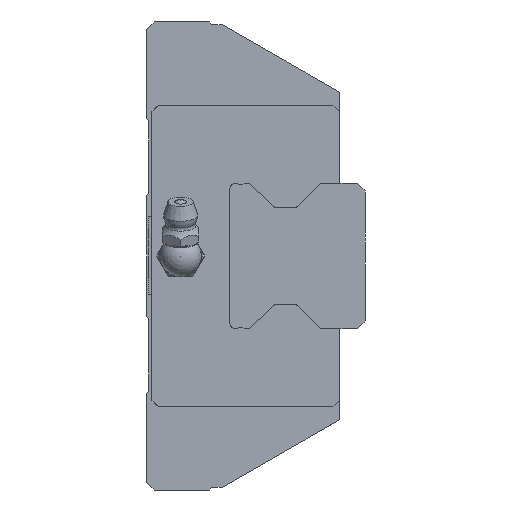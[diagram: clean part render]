
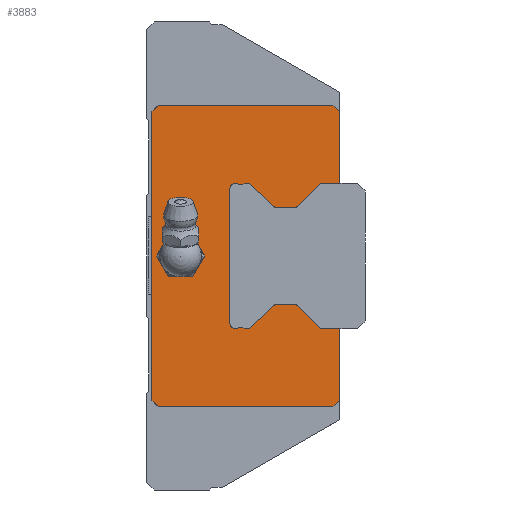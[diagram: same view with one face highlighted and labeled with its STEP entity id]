
A CAD part, left-side view. The second image highlights one B-rep face of the part: STEP entity #3883.
In plain terms, the highlighted planar face has unit normal (-1, 0, 0).
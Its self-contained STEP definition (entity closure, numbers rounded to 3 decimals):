
#153=CIRCLE('',#4205,3.);
#154=CIRCLE('',#4206,0.3);
#155=CIRCLE('',#4207,0.3);
#156=CIRCLE('',#4208,1.);
#157=CIRCLE('',#4209,1.);
#158=CIRCLE('',#4210,0.3);
#159=CIRCLE('',#4211,0.3);
#628=ORIENTED_EDGE('',*,*,#1568,.T.);
#629=ORIENTED_EDGE('',*,*,#1569,.T.);
#630=ORIENTED_EDGE('',*,*,#1557,.F.);
#631=ORIENTED_EDGE('',*,*,#1519,.F.);
#632=ORIENTED_EDGE('',*,*,#1515,.F.);
#633=ORIENTED_EDGE('',*,*,#1507,.F.);
#634=ORIENTED_EDGE('',*,*,#1544,.F.);
#635=ORIENTED_EDGE('',*,*,#1493,.F.);
#636=ORIENTED_EDGE('',*,*,#1530,.F.);
#637=ORIENTED_EDGE('',*,*,#1527,.F.);
#638=ORIENTED_EDGE('',*,*,#1559,.F.);
#639=ORIENTED_EDGE('',*,*,#1570,.T.);
#640=ORIENTED_EDGE('',*,*,#1571,.T.);
#641=ORIENTED_EDGE('',*,*,#1572,.F.);
#642=ORIENTED_EDGE('',*,*,#1573,.T.);
#643=ORIENTED_EDGE('',*,*,#1574,.F.);
#644=ORIENTED_EDGE('',*,*,#1575,.T.);
#645=ORIENTED_EDGE('',*,*,#1576,.T.);
#646=ORIENTED_EDGE('',*,*,#1577,.T.);
#647=ORIENTED_EDGE('',*,*,#1578,.T.);
#648=ORIENTED_EDGE('',*,*,#1579,.T.);
#649=ORIENTED_EDGE('',*,*,#1580,.T.);
#650=ORIENTED_EDGE('',*,*,#1581,.T.);
#651=ORIENTED_EDGE('',*,*,#1582,.T.);
#652=ORIENTED_EDGE('',*,*,#1583,.T.);
#653=ORIENTED_EDGE('',*,*,#1584,.T.);
#654=ORIENTED_EDGE('',*,*,#1585,.T.);
#655=ORIENTED_EDGE('',*,*,#1586,.F.);
#656=ORIENTED_EDGE('',*,*,#1587,.T.);
#657=ORIENTED_EDGE('',*,*,#1588,.F.);
#658=ORIENTED_EDGE('',*,*,#1589,.T.);
#1493=EDGE_CURVE('',#1994,#1995,#2366,.T.);
#1507=EDGE_CURVE('',#2007,#2008,#2380,.T.);
#1515=EDGE_CURVE('',#2008,#2014,#2387,.T.);
#1519=EDGE_CURVE('',#2014,#2016,#2391,.T.);
#1527=EDGE_CURVE('',#2023,#2024,#2399,.T.);
#1530=EDGE_CURVE('',#2024,#1994,#2402,.T.);
#1544=EDGE_CURVE('',#1995,#2007,#2411,.T.);
#1557=EDGE_CURVE('',#2016,#2035,#2422,.T.);
#1559=EDGE_CURVE('',#2042,#2023,#2424,.T.);
#1568=EDGE_CURVE('',#2050,#2050,#153,.T.);
#1569=EDGE_CURVE('',#2051,#2035,#2431,.T.);
#1570=EDGE_CURVE('',#2042,#2052,#2432,.T.);
#1571=EDGE_CURVE('',#2052,#2053,#2433,.T.);
#1572=EDGE_CURVE('',#2054,#2053,#154,.T.);
#1573=EDGE_CURVE('',#2054,#2055,#2434,.T.);
#1574=EDGE_CURVE('',#2056,#2055,#155,.T.);
#1575=EDGE_CURVE('',#2056,#2057,#2435,.T.);
#1576=EDGE_CURVE('',#2057,#2058,#2436,.T.);
#1577=EDGE_CURVE('',#2058,#2059,#2437,.T.);
#1578=EDGE_CURVE('',#2059,#2060,#2438,.T.);
#1579=EDGE_CURVE('',#2060,#2061,#156,.T.);
#1580=EDGE_CURVE('',#2061,#2062,#2439,.T.);
#1581=EDGE_CURVE('',#2062,#2063,#157,.T.);
#1582=EDGE_CURVE('',#2063,#2064,#2440,.T.);
#1583=EDGE_CURVE('',#2064,#2065,#2441,.T.);
#1584=EDGE_CURVE('',#2065,#2066,#2442,.T.);
#1585=EDGE_CURVE('',#2066,#2067,#2443,.T.);
#1586=EDGE_CURVE('',#2068,#2067,#158,.T.);
#1587=EDGE_CURVE('',#2068,#2069,#2444,.T.);
#1588=EDGE_CURVE('',#2070,#2069,#159,.T.);
#1589=EDGE_CURVE('',#2070,#2051,#2445,.T.);
#1994=VERTEX_POINT('',#5893);
#1995=VERTEX_POINT('',#5895);
#2007=VERTEX_POINT('',#5921);
#2008=VERTEX_POINT('',#5923);
#2014=VERTEX_POINT('',#5939);
#2016=VERTEX_POINT('',#5946);
#2023=VERTEX_POINT('',#5961);
#2024=VERTEX_POINT('',#5963);
#2035=VERTEX_POINT('',#6004);
#2042=VERTEX_POINT('',#6022);
#2050=VERTEX_POINT('',#6041);
#2051=VERTEX_POINT('',#6043);
#2052=VERTEX_POINT('',#6045);
#2053=VERTEX_POINT('',#6047);
#2054=VERTEX_POINT('',#6049);
#2055=VERTEX_POINT('',#6051);
#2056=VERTEX_POINT('',#6053);
#2057=VERTEX_POINT('',#6055);
#2058=VERTEX_POINT('',#6057);
#2059=VERTEX_POINT('',#6059);
#2060=VERTEX_POINT('',#6061);
#2061=VERTEX_POINT('',#6063);
#2062=VERTEX_POINT('',#6065);
#2063=VERTEX_POINT('',#6067);
#2064=VERTEX_POINT('',#6069);
#2065=VERTEX_POINT('',#6071);
#2066=VERTEX_POINT('',#6073);
#2067=VERTEX_POINT('',#6075);
#2068=VERTEX_POINT('',#6077);
#2069=VERTEX_POINT('',#6079);
#2070=VERTEX_POINT('',#6081);
#2366=LINE('',#5894,#2742);
#2380=LINE('',#5922,#2756);
#2387=LINE('',#5938,#2763);
#2391=LINE('',#5945,#2767);
#2399=LINE('',#5962,#2775);
#2402=LINE('',#5967,#2778);
#2411=LINE('',#5994,#2787);
#2422=LINE('',#6019,#2798);
#2424=LINE('',#6024,#2800);
#2431=LINE('',#6042,#2807);
#2432=LINE('',#6044,#2808);
#2433=LINE('',#6046,#2809);
#2434=LINE('',#6050,#2810);
#2435=LINE('',#6054,#2811);
#2436=LINE('',#6056,#2812);
#2437=LINE('',#6058,#2813);
#2438=LINE('',#6060,#2814);
#2439=LINE('',#6064,#2815);
#2440=LINE('',#6068,#2816);
#2441=LINE('',#6070,#2817);
#2442=LINE('',#6072,#2818);
#2443=LINE('',#6074,#2819);
#2444=LINE('',#6078,#2820);
#2445=LINE('',#6082,#2821);
#2742=VECTOR('',#4761,1000.);
#2756=VECTOR('',#4777,1000.);
#2763=VECTOR('',#4790,1000.);
#2767=VECTOR('',#4796,1000.);
#2775=VECTOR('',#4806,1000.);
#2778=VECTOR('',#4811,1000.);
#2787=VECTOR('',#4842,1000.);
#2798=VECTOR('',#4861,1000.);
#2800=VECTOR('',#4865,1000.);
#2807=VECTOR('',#4880,1000.);
#2808=VECTOR('',#4881,1000.);
#2809=VECTOR('',#4882,1000.);
#2810=VECTOR('',#4885,1000.);
#2811=VECTOR('',#4888,1000.);
#2812=VECTOR('',#4889,1000.);
#2813=VECTOR('',#4890,1000.);
#2814=VECTOR('',#4891,1000.);
#2815=VECTOR('',#4894,1000.);
#2816=VECTOR('',#4897,1000.);
#2817=VECTOR('',#4898,1000.);
#2818=VECTOR('',#4899,1000.);
#2819=VECTOR('',#4900,1000.);
#2820=VECTOR('',#4903,1000.);
#2821=VECTOR('',#4906,1000.);
#3121=EDGE_LOOP('',(#628));
#3122=EDGE_LOOP('',(#629,#630,#631,#632,#633,#634,#635,#636,#637,#638,#639,
#640,#641,#642,#643,#644,#645,#646,#647,#648,#649,#650,#651,#652,#653,#654,
#655,#656,#657,#658));
#3444=FACE_BOUND('',#3121,.T.);
#3445=FACE_BOUND('',#3122,.T.);
#3706=PLANE('',#4204);
#3883=ADVANCED_FACE('',(#3444,#3445),#3706,.F.);
#4204=AXIS2_PLACEMENT_3D('',#6039,#4876,#4877);
#4205=AXIS2_PLACEMENT_3D('',#6040,#4878,#4879);
#4206=AXIS2_PLACEMENT_3D('',#6048,#4883,#4884);
#4207=AXIS2_PLACEMENT_3D('',#6052,#4886,#4887);
#4208=AXIS2_PLACEMENT_3D('',#6062,#4892,#4893);
#4209=AXIS2_PLACEMENT_3D('',#6066,#4895,#4896);
#4210=AXIS2_PLACEMENT_3D('',#6076,#4901,#4902);
#4211=AXIS2_PLACEMENT_3D('',#6080,#4904,#4905);
#4761=DIRECTION('',(0.,0.707,0.707));
#4777=DIRECTION('',(0.,-0.707,0.707));
#4790=DIRECTION('',(0.,-1.,0.));
#4796=DIRECTION('',(0.,-0.707,-0.707));
#4806=DIRECTION('',(0.,0.707,-0.707));
#4811=DIRECTION('',(0.,1.,0.));
#4842=DIRECTION('',(0.,0.,1.));
#4861=DIRECTION('',(0.,0.,-1.));
#4865=DIRECTION('',(0.,0.,-1.));
#4876=DIRECTION('',(1.,0.,0.));
#4877=DIRECTION('',(0.,0.,-1.));
#4878=DIRECTION('',(1.,0.,0.));
#4879=DIRECTION('',(0.,0.,-1.));
#4880=DIRECTION('',(0.,-1.,0.));
#4881=DIRECTION('',(0.,1.,0.));
#4882=DIRECTION('',(0.,0.707,0.707));
#4883=DIRECTION('',(1.,0.,0.));
#4884=DIRECTION('',(0.,0.,-1.));
#4885=DIRECTION('',(0.,1.,0.));
#4886=DIRECTION('',(1.,0.,0.));
#4887=DIRECTION('',(0.,0.,-1.));
#4888=DIRECTION('',(0.,0.722,-0.692));
#4889=DIRECTION('',(0.,1.,0.));
#4890=DIRECTION('',(0.,0.707,0.707));
#4891=DIRECTION('',(0.,1.,0.));
#4892=DIRECTION('',(1.,0.,0.));
#4893=DIRECTION('',(0.,0.,-1.));
#4894=DIRECTION('',(0.,0.,1.));
#4895=DIRECTION('',(1.,0.,0.));
#4896=DIRECTION('',(0.,0.,-1.));
#4897=DIRECTION('',(0.,-1.,0.));
#4898=DIRECTION('',(0.,-0.707,0.707));
#4899=DIRECTION('',(0.,-1.,0.));
#4900=DIRECTION('',(0.,-0.722,-0.692));
#4901=DIRECTION('',(1.,0.,0.));
#4902=DIRECTION('',(0.,0.,-1.));
#4903=DIRECTION('',(0.,-1.,0.));
#4904=DIRECTION('',(1.,0.,0.));
#4905=DIRECTION('',(0.,0.,-1.));
#4906=DIRECTION('',(0.,-0.707,0.707));
#5893=CARTESIAN_POINT('',(-55.5,34.8,-29.));
#5894=CARTESIAN_POINT('',(-55.5,34.8,-29.));
#5895=CARTESIAN_POINT('',(-55.5,36.,-27.8));
#5921=CARTESIAN_POINT('',(-55.5,36.,27.8));
#5922=CARTESIAN_POINT('',(-55.5,36.,27.8));
#5923=CARTESIAN_POINT('',(-55.5,34.8,29.));
#5938=CARTESIAN_POINT('',(-55.5,34.8,29.));
#5939=CARTESIAN_POINT('',(-55.5,1.2,29.));
#5945=CARTESIAN_POINT('',(-55.5,1.2,29.));
#5946=CARTESIAN_POINT('',(-55.5,0.,27.8));
#5961=CARTESIAN_POINT('',(-55.5,0.,-27.8));
#5962=CARTESIAN_POINT('',(-55.5,0.,-27.8));
#5963=CARTESIAN_POINT('',(-55.5,1.2,-29.));
#5967=CARTESIAN_POINT('',(-55.5,1.2,-29.));
#5994=CARTESIAN_POINT('',(-55.5,36.,-27.8));
#6004=CARTESIAN_POINT('',(-55.5,0.,14.));
#6019=CARTESIAN_POINT('',(-55.5,0.,27.8));
#6022=CARTESIAN_POINT('',(-55.5,0.,-14.));
#6024=CARTESIAN_POINT('',(-55.5,0.,27.8));
#6039=CARTESIAN_POINT('',(-55.5,0.,0.));
#6040=CARTESIAN_POINT('',(-55.5,30.5,0.));
#6041=CARTESIAN_POINT('',(-55.5,30.5,-3.));
#6042=CARTESIAN_POINT('',(-55.5,3.6,14.));
#6043=CARTESIAN_POINT('',(-55.5,3.6,14.));
#6044=CARTESIAN_POINT('',(-55.5,-3.5,-14.));
#6045=CARTESIAN_POINT('',(-55.5,3.6,-14.));
#6046=CARTESIAN_POINT('',(-55.5,3.6,-14.));
#6047=CARTESIAN_POINT('',(-55.5,8.112,-9.488));
#6048=CARTESIAN_POINT('',(-55.5,8.324,-9.7));
#6049=CARTESIAN_POINT('',(-55.5,8.324,-9.4));
#6050=CARTESIAN_POINT('',(-55.5,8.324,-9.4));
#6051=CARTESIAN_POINT('',(-55.5,12.379,-9.4));
#6052=CARTESIAN_POINT('',(-55.5,12.379,-9.7));
#6053=CARTESIAN_POINT('',(-55.5,12.587,-9.483));
#6054=CARTESIAN_POINT('',(-55.5,12.587,-9.483));
#6055=CARTESIAN_POINT('',(-55.5,17.3,-14.));
#6056=CARTESIAN_POINT('',(-55.5,17.3,-14.));
#6057=CARTESIAN_POINT('',(-55.5,18.27,-14.));
#6058=CARTESIAN_POINT('',(-55.5,18.27,-14.));
#6059=CARTESIAN_POINT('',(-55.5,18.52,-13.75));
#6060=CARTESIAN_POINT('',(-55.5,18.52,-13.75));
#6061=CARTESIAN_POINT('',(-55.5,19.339,-13.75));
#6062=CARTESIAN_POINT('',(-55.5,20.,-13.));
#6063=CARTESIAN_POINT('',(-55.5,21.,-13.));
#6064=CARTESIAN_POINT('',(-55.5,21.,-13.));
#6065=CARTESIAN_POINT('',(-55.5,21.,13.));
#6066=CARTESIAN_POINT('',(-55.5,20.,13.));
#6067=CARTESIAN_POINT('',(-55.5,19.339,13.75));
#6068=CARTESIAN_POINT('',(-55.5,19.339,13.75));
#6069=CARTESIAN_POINT('',(-55.5,18.52,13.75));
#6070=CARTESIAN_POINT('',(-55.5,18.52,13.75));
#6071=CARTESIAN_POINT('',(-55.5,18.27,14.));
#6072=CARTESIAN_POINT('',(-55.5,18.27,14.));
#6073=CARTESIAN_POINT('',(-55.5,17.3,14.));
#6074=CARTESIAN_POINT('',(-55.5,17.3,14.));
#6075=CARTESIAN_POINT('',(-55.5,12.587,9.483));
#6076=CARTESIAN_POINT('',(-55.5,12.379,9.7));
#6077=CARTESIAN_POINT('',(-55.5,12.379,9.4));
#6078=CARTESIAN_POINT('',(-55.5,12.379,9.4));
#6079=CARTESIAN_POINT('',(-55.5,8.324,9.4));
#6080=CARTESIAN_POINT('',(-55.5,8.324,9.7));
#6081=CARTESIAN_POINT('',(-55.5,8.112,9.488));
#6082=CARTESIAN_POINT('',(-55.5,8.112,9.488));
